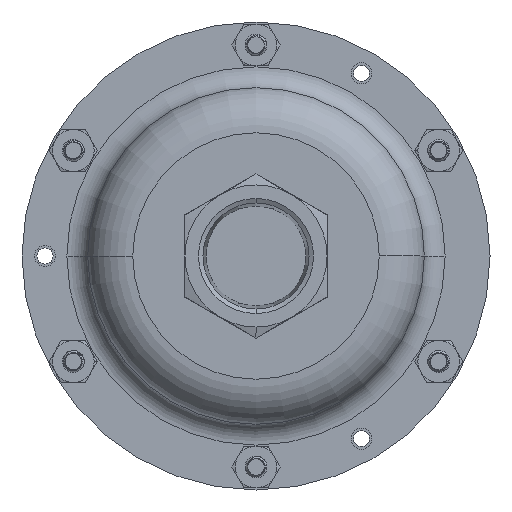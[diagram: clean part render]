
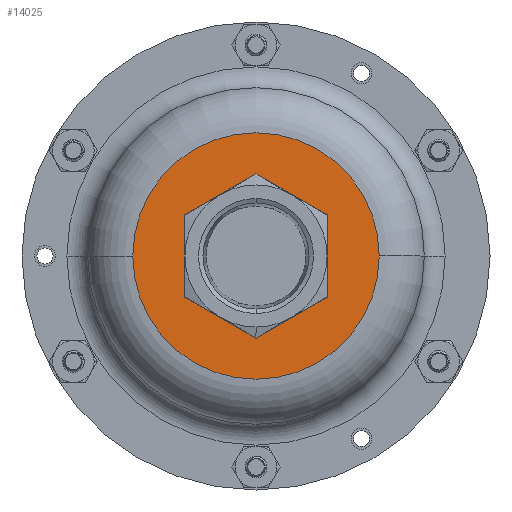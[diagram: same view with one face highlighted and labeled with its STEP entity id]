
A CAD part, front view. The second image highlights one B-rep face of the part: STEP entity #14025.
In plain terms, the highlighted planar face has unit normal (0, -1, 0).
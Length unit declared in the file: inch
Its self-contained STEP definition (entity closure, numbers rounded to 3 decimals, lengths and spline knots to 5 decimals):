
#209 = VERTEX_POINT ( 'NONE', #8760 ) ;
#253 = ORIENTED_EDGE ( 'NONE', *, *, #16159, .F. ) ;
#1023 = CARTESIAN_POINT ( 'NONE',  ( 0.434, -0.40399, 0. ) ) ;
#1445 = ORIENTED_EDGE ( 'NONE', *, *, #11443, .F. ) ;
#2008 = EDGE_CURVE ( 'NONE', #209, #11853, #23175, .T. ) ;
#2120 = EDGE_LOOP ( 'NONE', ( #1445, #23466 ) ) ;
#5309 = VERTEX_POINT ( 'NONE', #5387 ) ;
#5387 = CARTESIAN_POINT ( 'NONE',  ( -0.9215, -0.40399, 0. ) ) ;
#6534 = CARTESIAN_POINT ( 'NONE',  ( 0., -0.40399, 0. ) ) ;
#6869 = AXIS2_PLACEMENT_3D ( 'NONE', #10339, #12496, #20698 ) ;
#7202 = PLANE ( 'NONE',  #26354 ) ;
#8760 = CARTESIAN_POINT ( 'NONE',  ( -0.434, -0.40399, 0. ) ) ;
#8940 = CIRCLE ( 'NONE', #23964, 0.9215 ) ;
#9049 = EDGE_CURVE ( 'NONE', #5309, #18698, #8940, .T. ) ;
#10011 = AXIS2_PLACEMENT_3D ( 'NONE', #24907, #26398, #18488 ) ;
#10339 = CARTESIAN_POINT ( 'NONE',  ( 0., -0.40399, 0. ) ) ;
#10587 = ORIENTED_EDGE ( 'NONE', *, *, #2008, .F. ) ;
#10879 = CARTESIAN_POINT ( 'NONE',  ( 0., -0.40399, 0. ) ) ;
#11135 = DIRECTION ( 'NONE',  ( 0., 1., 0. ) ) ;
#11443 = EDGE_CURVE ( 'NONE', #18698, #5309, #19427, .T. ) ;
#11702 = AXIS2_PLACEMENT_3D ( 'NONE', #10879, #11135, #15189 ) ;
#11853 = VERTEX_POINT ( 'NONE', #1023 ) ;
#12496 = DIRECTION ( 'NONE',  ( 0., -1., 0. ) ) ;
#13660 = DIRECTION ( 'NONE',  ( 0., 1., 0. ) ) ;
#14025 = ADVANCED_FACE ( 'NONE', ( #25600, #19572 ), #7202, .F. ) ;
#14742 = DIRECTION ( 'NONE',  ( 1., 0., 0. ) ) ;
#15189 = DIRECTION ( 'NONE',  ( 1., 0., 0. ) ) ;
#15546 = CARTESIAN_POINT ( 'NONE',  ( 0., -0.40399, -0.9215 ) ) ;
#16159 = EDGE_CURVE ( 'NONE', #11853, #209, #20320, .T. ) ;
#18488 = DIRECTION ( 'NONE',  ( -1., 0., 0. ) ) ;
#18698 = VERTEX_POINT ( 'NONE', #26520 ) ;
#19427 = CIRCLE ( 'NONE', #11702, 0.9215 ) ;
#19572 = FACE_OUTER_BOUND ( 'NONE', #2120, .T. ) ;
#20320 = CIRCLE ( 'NONE', #10011, 0.434 ) ;
#20698 = DIRECTION ( 'NONE',  ( -1., 0., 0. ) ) ;
#21961 = EDGE_LOOP ( 'NONE', ( #10587, #253 ) ) ;
#22171 = DIRECTION ( 'NONE',  ( 0., 1., 0. ) ) ;
#23175 = CIRCLE ( 'NONE', #6869, 0.434 ) ;
#23466 = ORIENTED_EDGE ( 'NONE', *, *, #9049, .F. ) ;
#23964 = AXIS2_PLACEMENT_3D ( 'NONE', #6534, #22171, #14742 ) ;
#24907 = CARTESIAN_POINT ( 'NONE',  ( 0., -0.40399, 0. ) ) ;
#25600 = FACE_BOUND ( 'NONE', #21961, .T. ) ;
#25728 = DIRECTION ( 'NONE',  ( 1., 0., 0. ) ) ;
#26354 = AXIS2_PLACEMENT_3D ( 'NONE', #15546, #13660, #25728 ) ;
#26398 = DIRECTION ( 'NONE',  ( 0., -1., 0. ) ) ;
#26520 = CARTESIAN_POINT ( 'NONE',  ( 0.9215, -0.40399, 0. ) ) ;
